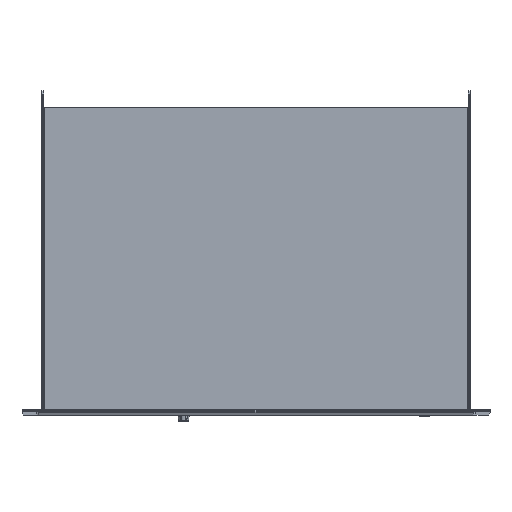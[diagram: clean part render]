
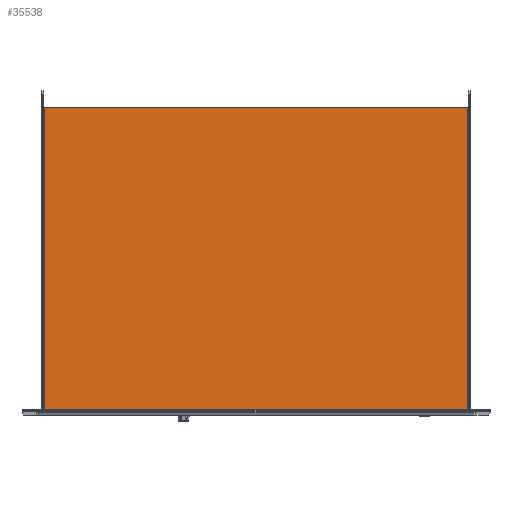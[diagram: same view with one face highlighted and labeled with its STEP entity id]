
A CAD part, top view. The second image highlights one B-rep face of the part: STEP entity #35538.
In plain terms, the highlighted planar face has unit normal (0, 0, 1) as drawn and (0, 1, 0) by its records, which use the part's own axes.
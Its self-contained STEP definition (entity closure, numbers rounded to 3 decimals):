
#2411=PLANE('',#38169);
#4142=FACE_OUTER_BOUND('',#6144,.T.);
#6144=EDGE_LOOP('',(#31175,#31176,#31177,#31178));
#9048=LINE('',#63650,#12385);
#9050=LINE('',#63656,#12387);
#9051=LINE('',#63658,#12388);
#9052=LINE('',#63659,#12389);
#12385=VECTOR('',#45627,10.);
#12387=VECTOR('',#45633,10.);
#12388=VECTOR('',#45634,10.);
#12389=VECTOR('',#45635,10.);
#16929=VERTEX_POINT('',#63647);
#16930=VERTEX_POINT('',#63649);
#16932=VERTEX_POINT('',#63655);
#16933=VERTEX_POINT('',#63657);
#21812=EDGE_CURVE('',#16929,#16930,#9048,.T.);
#21815=EDGE_CURVE('',#16929,#16932,#9050,.T.);
#21816=EDGE_CURVE('',#16933,#16932,#9051,.T.);
#21817=EDGE_CURVE('',#16930,#16933,#9052,.T.);
#31175=ORIENTED_EDGE('',*,*,#21812,.F.);
#31176=ORIENTED_EDGE('',*,*,#21815,.T.);
#31177=ORIENTED_EDGE('',*,*,#21816,.F.);
#31178=ORIENTED_EDGE('',*,*,#21817,.F.);
#35538=ADVANCED_FACE('',(#4142),#2411,.T.);
#38169=AXIS2_PLACEMENT_3D('',#63654,#45631,#45632);
#45627=DIRECTION('',(0.,0.,1.));
#45631=DIRECTION('center_axis',(0.,1.,0.));
#45632=DIRECTION('ref_axis',(1.,0.,0.));
#45633=DIRECTION('',(-1.,0.,0.));
#45634=DIRECTION('',(0.,0.,-1.));
#45635=DIRECTION('',(-1.,0.,0.));
#63647=CARTESIAN_POINT('',(218.6,44.45,-313.));
#63649=CARTESIAN_POINT('',(218.6,44.45,-1.3));
#63650=CARTESIAN_POINT('',(218.6,44.45,-88.4));
#63654=CARTESIAN_POINT('Origin',(0.,44.45,-175.5));
#63655=CARTESIAN_POINT('',(-218.6,44.45,-313.));
#63656=CARTESIAN_POINT('',(219.,44.45,-313.));
#63657=CARTESIAN_POINT('',(-218.6,44.45,-1.3));
#63658=CARTESIAN_POINT('',(-218.6,44.45,-88.4));
#63659=CARTESIAN_POINT('',(-221.,44.45,-1.3));
